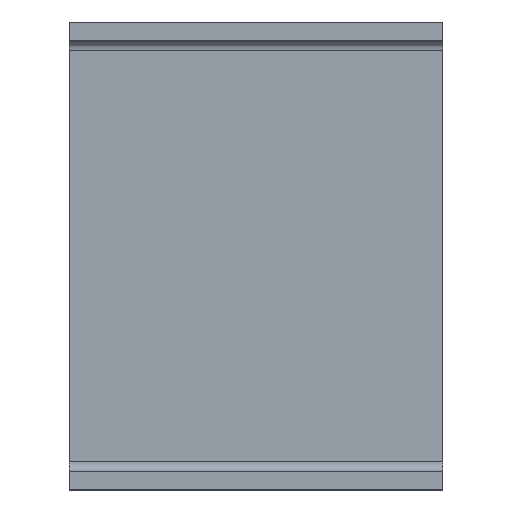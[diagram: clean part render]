
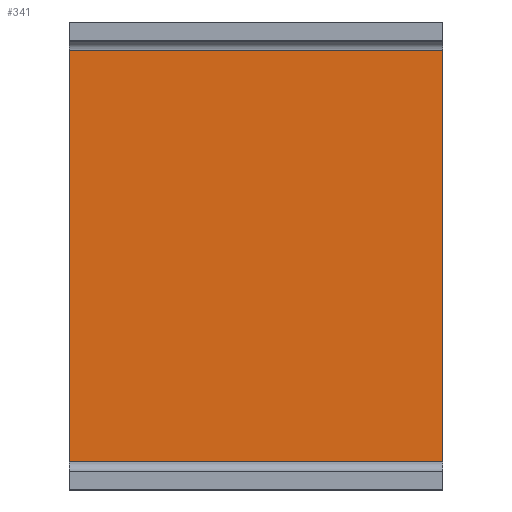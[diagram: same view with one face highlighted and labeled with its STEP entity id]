
A CAD part, top view. The second image highlights one B-rep face of the part: STEP entity #341.
In plain terms, the highlighted planar face has unit normal (0, 0, 1).
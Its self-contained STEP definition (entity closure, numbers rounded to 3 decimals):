
#43=FACE_OUTER_BOUND('',#61,.T.);
#61=EDGE_LOOP('',(#257,#258,#259,#260));
#91=LINE('',#544,#127);
#92=LINE('',#547,#128);
#93=LINE('',#549,#129);
#94=LINE('',#550,#130);
#127=VECTOR('',#443,10.);
#128=VECTOR('',#446,10.);
#129=VECTOR('',#447,10.);
#130=VECTOR('',#448,10.);
#161=VERTEX_POINT('',#540);
#162=VERTEX_POINT('',#542);
#163=VERTEX_POINT('',#546);
#164=VERTEX_POINT('',#548);
#201=EDGE_CURVE('',#161,#162,#91,.T.);
#202=EDGE_CURVE('',#163,#161,#92,.T.);
#203=EDGE_CURVE('',#164,#162,#93,.T.);
#204=EDGE_CURVE('',#163,#164,#94,.T.);
#257=ORIENTED_EDGE('',*,*,#202,.T.);
#258=ORIENTED_EDGE('',*,*,#201,.T.);
#259=ORIENTED_EDGE('',*,*,#203,.F.);
#260=ORIENTED_EDGE('',*,*,#204,.F.);
#326=PLANE('',#379);
#341=ADVANCED_FACE('',(#43),#326,.T.);
#379=AXIS2_PLACEMENT_3D('',#545,#444,#445);
#443=DIRECTION('',(1.,0.,0.));
#444=DIRECTION('center_axis',(0.,0.,1.));
#445=DIRECTION('ref_axis',(0.,-1.,0.));
#446=DIRECTION('',(0.,-1.,0.));
#447=DIRECTION('',(0.,-1.,0.));
#448=DIRECTION('',(1.,0.,0.));
#540=CARTESIAN_POINT('',(0.,-47.,2.));
#542=CARTESIAN_POINT('',(40.,-47.,2.));
#544=CARTESIAN_POINT('',(0.,-47.,2.));
#545=CARTESIAN_POINT('Origin',(0.,-3.,2.));
#546=CARTESIAN_POINT('',(0.,-3.,2.));
#547=CARTESIAN_POINT('',(0.,-3.,2.));
#548=CARTESIAN_POINT('',(40.,-3.,2.));
#549=CARTESIAN_POINT('',(40.,-3.,2.));
#550=CARTESIAN_POINT('',(0.,-3.,2.));
